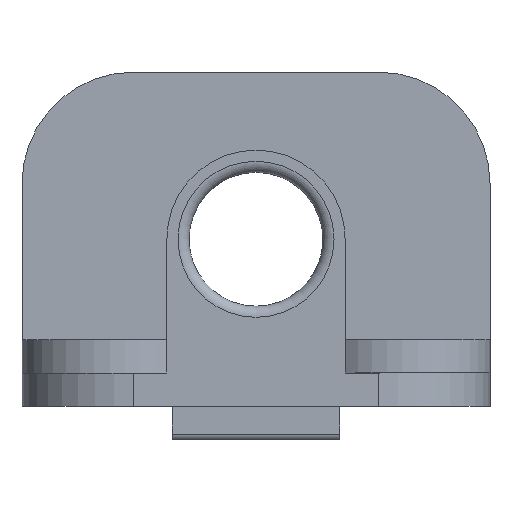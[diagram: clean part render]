
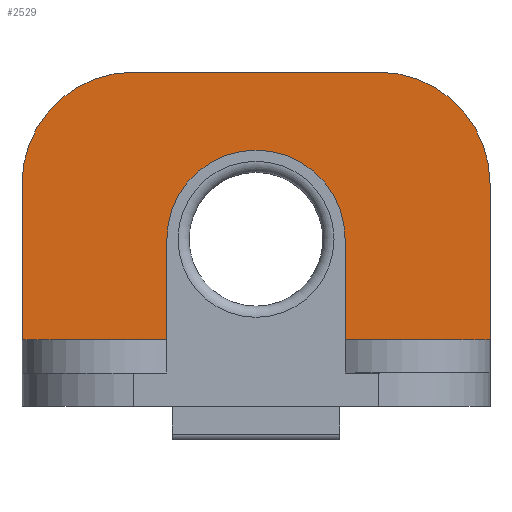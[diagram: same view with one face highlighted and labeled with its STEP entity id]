
A CAD part, front view. The second image highlights one B-rep face of the part: STEP entity #2529.
In plain terms, the highlighted planar face has unit normal (0, -1, 0).
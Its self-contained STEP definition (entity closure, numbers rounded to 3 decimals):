
#198=CIRCLE('',#2648,10.);
#205=CIRCLE('',#2663,8.);
#206=CIRCLE('',#2668,10.);
#356=FACE_OUTER_BOUND('',#504,.T.);
#504=EDGE_LOOP('',(#2309,#2310,#2311,#2312,#2313,#2314,#2315,#2316,#2317,
#2318));
#528=LINE('',#3215,#766);
#557=LINE('',#3284,#795);
#560=LINE('',#3289,#798);
#733=LINE('',#4649,#971);
#738=LINE('',#4671,#976);
#741=LINE('',#4676,#979);
#743=LINE('',#4682,#981);
#766=VECTOR('',#2716,10.);
#795=VECTOR('',#2775,10.);
#798=VECTOR('',#2780,10.);
#971=VECTOR('',#3109,10.);
#976=VECTOR('',#3136,10.);
#979=VECTOR('',#3141,10.);
#981=VECTOR('',#3149,10.);
#1000=VERTEX_POINT('',#3212);
#1001=VERTEX_POINT('',#3214);
#1025=VERTEX_POINT('',#3281);
#1026=VERTEX_POINT('',#3283);
#1027=VERTEX_POINT('',#3288);
#1215=VERTEX_POINT('',#4642);
#1216=VERTEX_POINT('',#4644);
#1222=VERTEX_POINT('',#4670);
#1223=VERTEX_POINT('',#4674);
#1224=VERTEX_POINT('',#4681);
#1249=EDGE_CURVE('',#1001,#1000,#528,.T.);
#1283=EDGE_CURVE('',#1025,#1026,#557,.T.);
#1286=EDGE_CURVE('',#1027,#1026,#560,.T.);
#1569=EDGE_CURVE('',#1215,#1216,#198,.T.);
#1572=EDGE_CURVE('',#1215,#1027,#733,.T.);
#1583=EDGE_CURVE('',#1001,#1222,#738,.T.);
#1586=EDGE_CURVE('',#1000,#1223,#741,.T.);
#1588=EDGE_CURVE('',#1222,#1025,#205,.T.);
#1589=EDGE_CURVE('',#1224,#1216,#743,.T.);
#1591=EDGE_CURVE('',#1224,#1223,#206,.T.);
#2309=ORIENTED_EDGE('',*,*,#1249,.T.);
#2310=ORIENTED_EDGE('',*,*,#1586,.T.);
#2311=ORIENTED_EDGE('',*,*,#1591,.F.);
#2312=ORIENTED_EDGE('',*,*,#1589,.T.);
#2313=ORIENTED_EDGE('',*,*,#1569,.F.);
#2314=ORIENTED_EDGE('',*,*,#1572,.T.);
#2315=ORIENTED_EDGE('',*,*,#1286,.T.);
#2316=ORIENTED_EDGE('',*,*,#1283,.F.);
#2317=ORIENTED_EDGE('',*,*,#1588,.F.);
#2318=ORIENTED_EDGE('',*,*,#1583,.F.);
#2394=PLANE('',#2669);
#2529=ADVANCED_FACE('',(#356),#2394,.F.);
#2648=AXIS2_PLACEMENT_3D('',#4645,#3103,#3104);
#2663=AXIS2_PLACEMENT_3D('',#4679,#3145,#3146);
#2668=AXIS2_PLACEMENT_3D('',#4687,#3157,#3158);
#2669=AXIS2_PLACEMENT_3D('',#4688,#3159,#3160);
#2716=DIRECTION('',(1.,0.,0.));
#2775=DIRECTION('',(0.,0.,-1.));
#2780=DIRECTION('',(1.,0.,0.));
#3103=DIRECTION('center_axis',(0.,1.,0.));
#3104=DIRECTION('ref_axis',(-0.707,0.,0.707));
#3109=DIRECTION('',(0.,0.,-1.));
#3136=DIRECTION('',(0.,0.,1.));
#3141=DIRECTION('',(0.,0.,1.));
#3145=DIRECTION('center_axis',(0.,-1.,0.));
#3146=DIRECTION('ref_axis',(-1.,0.,0.));
#3149=DIRECTION('',(-1.,0.,0.));
#3157=DIRECTION('center_axis',(0.,1.,0.));
#3158=DIRECTION('ref_axis',(0.707,0.,0.707));
#3159=DIRECTION('center_axis',(0.,1.,0.));
#3160=DIRECTION('ref_axis',(-1.,0.,0.));
#3212=CARTESIAN_POINT('',(14.186,53.1,58.2));
#3214=CARTESIAN_POINT('',(1.186,53.1,58.2));
#3215=CARTESIAN_POINT('',(3.686,53.1,58.2));
#3281=CARTESIAN_POINT('',(-14.814,53.1,70.2));
#3283=CARTESIAN_POINT('',(-14.814,53.1,58.2));
#3284=CARTESIAN_POINT('',(-14.814,53.1,64.2));
#3288=CARTESIAN_POINT('',(-27.814,53.1,58.2));
#3289=CARTESIAN_POINT('',(-11.814,53.1,58.2));
#4642=CARTESIAN_POINT('',(-27.814,53.1,75.2));
#4644=CARTESIAN_POINT('',(-17.814,53.1,85.2));
#4645=CARTESIAN_POINT('Origin',(-17.814,53.1,75.2));
#4649=CARTESIAN_POINT('',(-27.814,53.1,55.2));
#4670=CARTESIAN_POINT('',(1.186,53.1,70.2));
#4671=CARTESIAN_POINT('',(1.186,53.1,70.2));
#4674=CARTESIAN_POINT('',(14.186,53.1,75.2));
#4676=CARTESIAN_POINT('',(14.186,53.1,85.2));
#4679=CARTESIAN_POINT('Origin',(-6.814,53.1,70.2));
#4681=CARTESIAN_POINT('',(4.186,53.1,85.2));
#4682=CARTESIAN_POINT('',(-27.814,53.1,85.2));
#4687=CARTESIAN_POINT('Origin',(4.186,53.1,75.2));
#4688=CARTESIAN_POINT('Origin',(-6.814,53.1,70.2));
